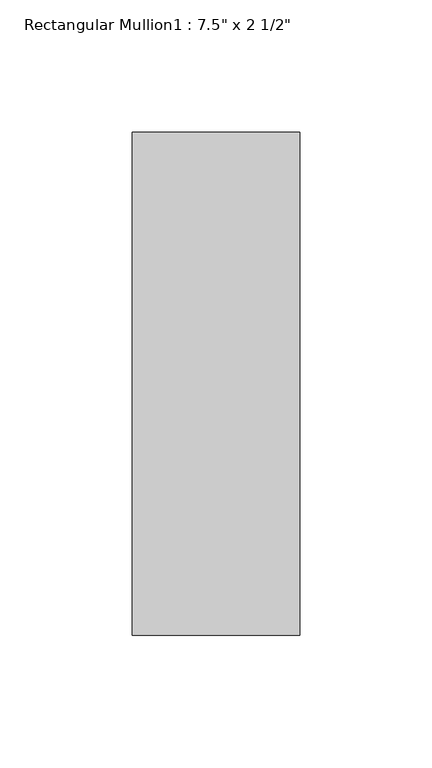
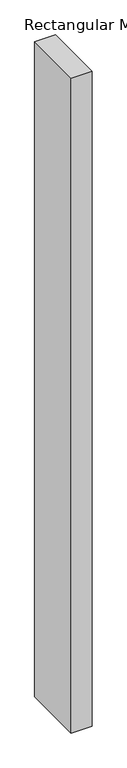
"""IFC4 building model written with IfcOpenShell, lengths in millimetres: member geometry."""

from ifc_helpers import new_model, si_unit, frame, origin, place, context, project, spatial, polyline, outline, extrude, source, transform, mapped, element, save


def member_d1457ef5(model_context):
    return source(origin(), model_context, "Body", "SweptSolid", [
        extrude(outline(polyline([(31.75, -165.1), (-31.75, -165.1), (-31.75, 25.4), (31.75, 25.4), (31.75, -165.1)])), frame((0.0, 0.0, -2089.15), z_axis=(0.0, 0.0, 1.0), x_axis=(1.0, 0.0, 0.0)), (0.0, 0.0, 1.0), 2089.15),
    ])


if __name__ == "__main__":
    model = new_model("IFC4")
    model_context = context("Model", 3, world=origin())
    ifc_project = project(units=[si_unit("LENGTHUNIT", "METRE", prefix="MILLI")], contexts=[model_context])
    site = spatial("IfcSite", under=ifc_project)
    building = spatial("IfcBuilding", under=site)
    placement = place(None, origin())
    member_shape = member_d1457ef5(model_context)
    element("IfcMember", 1, ObjectType="Rectangular Mullion1 : 7.5\" x 2 1/2\"", at=placement, inside=building, context=model_context, shape_type="MappedRepresentation", body=[
        mapped(member_shape, transform((0.0, 0.0, 0.0), x_axis=(1.0, 0.0, 0.0), y_axis=(0.0, 1.0, 0.0), z_axis=(0.0, 0.0, 1.0))),
    ])
    save(model, "model.ifc")
